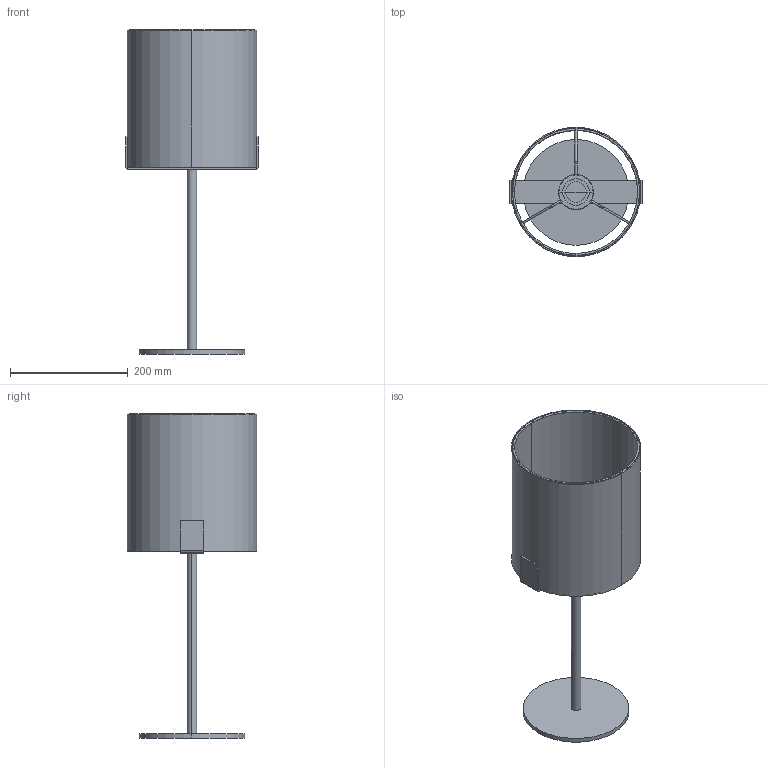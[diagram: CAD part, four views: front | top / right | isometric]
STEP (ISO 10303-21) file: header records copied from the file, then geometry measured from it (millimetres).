
FILE_DESCRIPTION(/* description */ (''),/* implementation_level */ '2;1');
FILE_NAME(/* name */ '20054.step',/* time_stamp */ '2024-05-15T10:42:04+02:00',/* author */ ('RenataManzini'),/* organization */ (''),/* preprocessor_version */ 'ST-DEVELOPER v20',/* originating_system */ 'AutoCAD Mechanical',/* authorisation */ '');
FILE_SCHEMA (('AUTOMOTIVE_DESIGN { 1 0 10303 214 3 1 1 }'));
Length unit declared in the file: millimetre
Products named in the file (2): Product; NILA_SOBREMESA - pieza_62173-630767-_3D_
Assembly tree (1 placements, depth 2):
  Product
    NILA_SOBREMESA - pieza_62173-630767-_3D_
Bounding box: 226 x 220 x 551.87 mm (x, y, z)
Volume: 639878.1 mm3; surface area: 461230.2 mm2
Topology: 9 solids, 9 shells, 91 faces, 188 edges, 115 vertices
Faces by surface type: cylinder 40, plane 33, torus 18
Entity records: 4974 total; most frequent: CARTESIAN_POINT 2996, DIRECTION 409, ORIENTED_EDGE 370, EDGE_CURVE 185, AXIS2_PLACEMENT_3D 167, VERTEX_POINT 110, EDGE_LOOP 99, FACE_OUTER_BOUND 91
